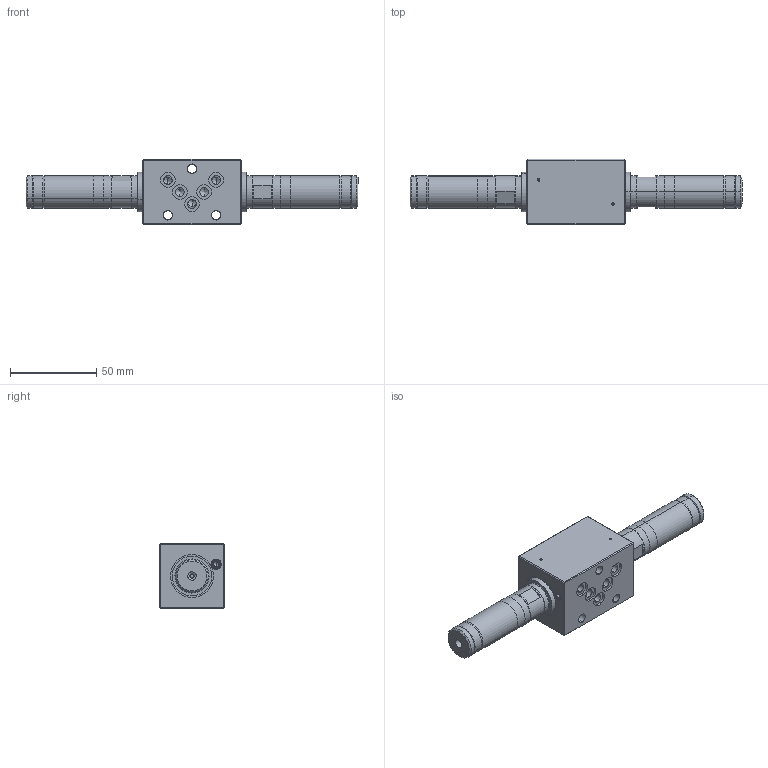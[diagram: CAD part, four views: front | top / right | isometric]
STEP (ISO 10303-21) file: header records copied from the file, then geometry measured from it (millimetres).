
FILE_DESCRIPTION (( 'STEP AP214' ), '1' );
FILE_NAME ('WDPFA04.STEP', '2014-03-19T10:17:47', ( '' ), ( '' ), 'SwSTEP 2.0', 'SolidWorks 2012', '' );
FILE_SCHEMA (( 'AUTOMOTIVE_DESIGN' ));
Length unit declared in the file: millimetre
Products named in the file (1): WDPFA04
Bounding box: 192.6 x 38 x 38 mm (x, y, z)
Volume: 110280.4 mm3; surface area: 36508 mm2
Topology: 11 solids, 11 shells, 1256 faces, 3266 edges, 2074 vertices
Faces by surface type: plane 703, cylinder 362, cone 107, torus 60, bspline 24
Entity records: 54009 total; most frequent: CARTESIAN_POINT 8482, DIRECTION 6903, ORIENTED_EDGE 6484, EDGE_CURVE 3242, AXIS2_PLACEMENT_3D 2507, VERTEX_POINT 2074, LINE 1889, VECTOR 1889
